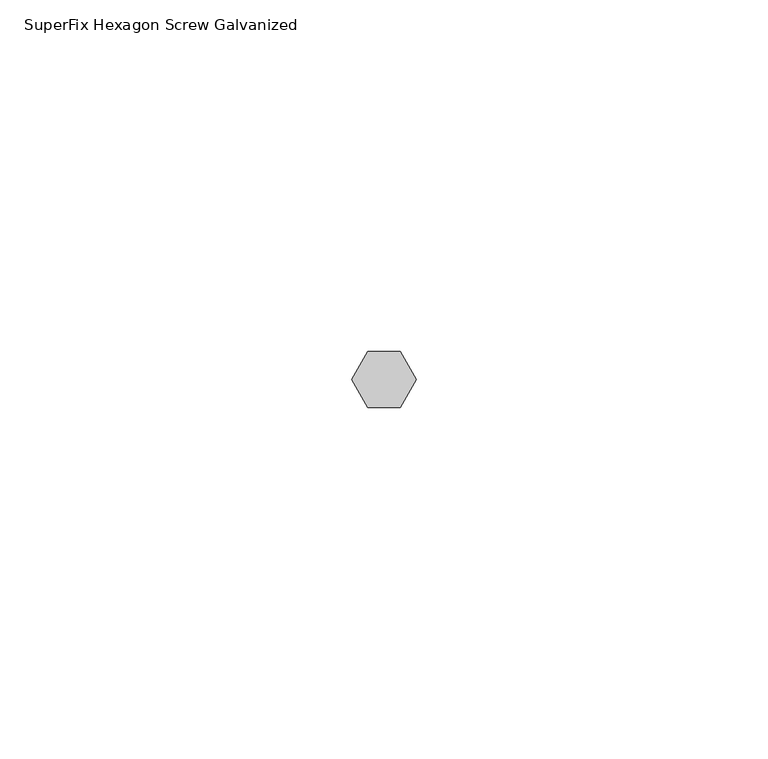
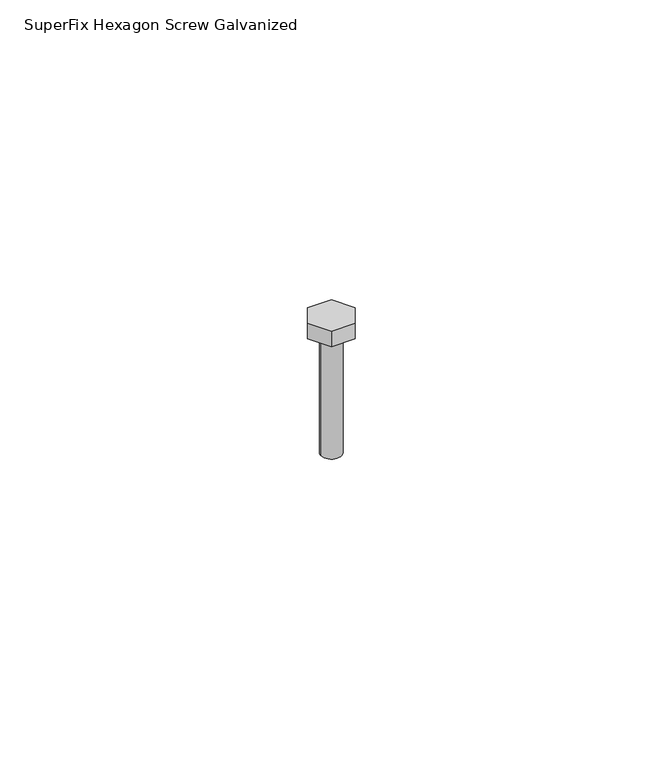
"""IFC4 building model written with IfcOpenShell, lengths in millimetres: valve geometry, SuperFix Hexagon Screw Galvanized : Hexagon Screw Galvanized Extra  M4 × 25."""

from ifc_helpers import new_model, si_unit, frame, origin, origin_with_axes, place, context, project, spatial, circle_curve, source, transform, mapped, element, save
from ifc_brep_helpers import plane_surface, cylinder_surface, advanced_brep


def superfix_hexagon_screw_galvanized_39733bb5(model_context):
    return source(origin(), model_context, "Body", "AdvancedBrep", [
        advanced_brep(
        [(-4.6188022, 0.0, 3.2), (-2.3094011, -4.0, 3.2), (2.3094011, -4.0, 3.2), (4.6188022, 0.0, 3.2), (2.3094011, 4.0, 3.2), (-2.3094011, 4.0, 3.2), (-4.6188022, 0.0, 0.0), (-2.3094011, 4.0, 0.0), (2.3094011, 4.0, 0.0), (4.6188022, 0.0, 0.0), (2.3094011, -4.0, 0.0), (-2.3094011, -4.0, 0.0), (-2.0, 0.0, 0.0), (2.0, 0.0, 0.0), (-2.0, 0.0, -25.0), (2.0, 0.0, -25.0)],
        [
            (0, 1),
            (1, 2),
            (2, 3),
            (3, 4),
            (4, 5),
            (5, 0),
            (6, 7),
            (7, 8),
            (8, 9),
            (9, 10),
            (10, 11),
            (11, 6),
            (12, 13, circle_curve(origin_with_axes(), 2.0)),
            (13, 12, circle_curve(origin_with_axes(), 2.0)),
            (0, 6),
            (11, 1),
            (10, 2),
            (9, 3),
            (8, 4),
            (7, 5),
            (14, 15, circle_curve(frame((0.0, 0.0, -25.0), z_axis=(0.0, 0.0, -1.0), x_axis=(1.0, 0.0, 0.0)), 2.0)),
            (15, 14, circle_curve(frame((0.0, 0.0, -25.0), z_axis=(0.0, 0.0, -1.0), x_axis=(1.0, 0.0, 0.0)), 2.0)),
            (15, 13),
            (12, 14),
        ],
        [
            plane_surface(frame((-4.6188022, 0.0, 3.2), z_axis=(0.0, 0.0, 1.0), x_axis=(0.4999999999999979, -0.8660254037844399, 0.0))),
            plane_surface(frame((-4.6188022, 0.0, 0.0), z_axis=(0.0, 0.0, -1.0), x_axis=(-0.4999999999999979, 0.8660254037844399, 0.0))),
            plane_surface(frame((-4.6188022, 0.0, 3.2), z_axis=(-0.8660254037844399, -0.4999999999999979, 0.0), x_axis=(0.0, 0.0, -1.0))),
            plane_surface(frame((-2.3094011, -4.0, 3.2), z_axis=(0.0, -1.0, 0.0), x_axis=(0.0, 0.0, -1.0))),
            plane_surface(frame((2.3094011, -4.0, 3.2), z_axis=(0.8660254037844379, -0.5000000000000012, 0.0), x_axis=(0.0, 0.0, -1.0))),
            plane_surface(frame((4.6188022, 0.0, 3.2), z_axis=(0.8660254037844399, 0.4999999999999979, 0.0), x_axis=(0.0, 0.0, -1.0))),
            plane_surface(frame((2.3094011, 4.0, 3.2), z_axis=(0.0, 1.0, 0.0), x_axis=(0.0, 0.0, -1.0))),
            plane_surface(frame((-2.3094011, 4.0, 3.2), z_axis=(-0.866025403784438, 0.5000000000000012, 0.0), x_axis=(0.0, 0.0, -1.0))),
            plane_surface(frame((2.0, 0.0, -25.0), z_axis=(0.0, 0.0, -1.0), x_axis=(0.0, -1.0, 0.0))),
            cylinder_surface(frame((0.0, 0.0, -25.0), z_axis=(0.0, 0.0, 1.0), x_axis=(1.0, 0.0, 0.0)), 2.0),
        ],
        [
            (0, [[1, 2, 3, 4, 5, 6]]),
            (1, [[7, 8, 9, 10, 11, 12], [13, 14]]),
            (2, [[-1, 15, -12, 16]]),
            (3, [[-2, -16, -11, 17]]),
            (4, [[-3, -17, -10, 18]]),
            (5, [[-4, -18, -9, 19]]),
            (6, [[-5, -19, -8, 20]]),
            (7, [[-6, -20, -7, -15]]),
            (8, [[21, 22]]),
            (9, [[-22, 23, -13, 24]]),
            (9, [[-21, -24, -14, -23]]),
        ],
    ),
    ])


if __name__ == "__main__":
    model = new_model("IFC4")
    model_context = context("Model", 3, world=origin())
    ifc_project = project(units=[si_unit("LENGTHUNIT", "METRE", prefix="MILLI")], contexts=[model_context])
    site = spatial("IfcSite", under=ifc_project)
    building = spatial("IfcBuilding", under=site)
    placement = place(None, origin())
    superfix_hexagon_screw_galvanized_shape = superfix_hexagon_screw_galvanized_39733bb5(model_context)
    element("IfcValve", 1, ObjectType="SuperFix Hexagon Screw Galvanized : Hexagon Screw Galvanized Extra  M4 × 25", at=placement, inside=building, context=model_context, shape_type="MappedRepresentation", body=[
        mapped(superfix_hexagon_screw_galvanized_shape, transform((0.0, 0.0, 0.0), x_axis=(1.0, 0.0, 0.0), y_axis=(0.0, 1.0, 0.0), z_axis=(0.0, 0.0, 1.0))),
    ])
    save(model, "model.ifc")
